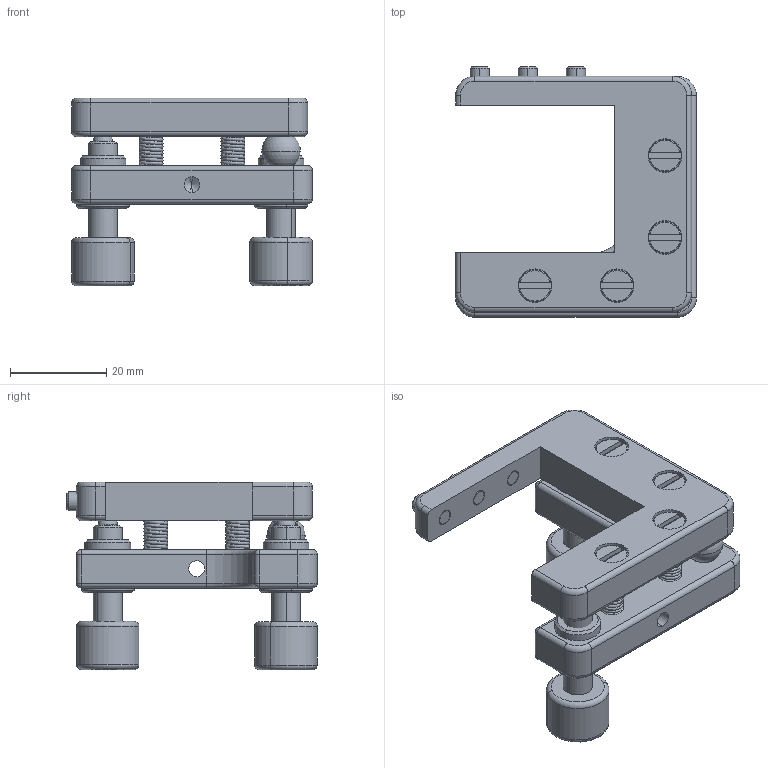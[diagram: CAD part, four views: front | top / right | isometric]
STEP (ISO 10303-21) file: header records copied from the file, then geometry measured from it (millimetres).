
FILE_DESCRIPTION (( 'STEP AP203' ), '1' );
FILE_NAME ('7MMC330翐醱噩殤.STEP', '2020-06-05T08:52:00', ( '' ), ( '' ), 'SwSTEP 2.0', 'SolidWorks 2018', '' );
FILE_SCHEMA (( 'CONFIG_CONTROL_DESIGN' ));
Length unit declared in the file: millimetre
Products named in the file (1): 7MMC330翐醱噩殤
Bounding box: 50 x 52 x 39 mm (x, y, z)
Volume: 23559.1 mm3; surface area: 17881.7 mm2
Topology: 31 solids, 31 shells, 492 faces, 1099 edges, 674 vertices
Faces by surface type: plane 178, cylinder 162, cone 74, torus 56, sphere 14, bspline 8
Entity records: 24091 total; most frequent: CARTESIAN_POINT 13063, DIRECTION 2490, ORIENTED_EDGE 2100, EDGE_CURVE 1050, AXIS2_PLACEMENT_3D 1048, VERTEX_POINT 661, EDGE_LOOP 565, CIRCLE 563
